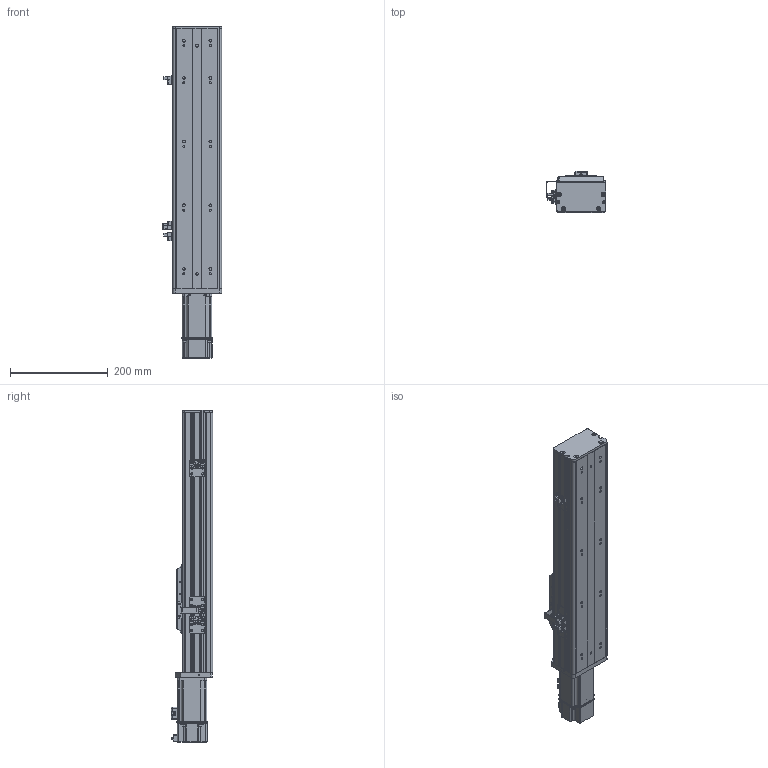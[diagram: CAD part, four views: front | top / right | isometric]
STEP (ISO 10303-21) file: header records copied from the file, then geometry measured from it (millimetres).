
FILE_DESCRIPTION (( 'STEP AP203' ), '1' );
FILE_NAME ('BOSW100-300-1610-1P-CM-M400W-O-S3（方程式2016）.step', '2020-10-10T06:31:16', ( '' ), ( '' ), 'SwSTEP 2.0', 'SolidWorks 2016', '' );
FILE_SCHEMA (( 'CONFIG_CONTROL_DESIGN' ));
Length unit declared in the file: millimetre
Products named in the file (13): BOSW-100-綴裔啣; 俋境嫖覜嘐隅啣; 新结构AIMSW-100-1P-宽&高轨共用-滑动座上组件; S400W(SMA-L040); BOSW-100-CM-宽轨-三菱M200W&400W马达板(新结构); BOSW-100-1P-CM-宽轨-侧板-300客户图纸; 放大器内置U型微型光电传感器PM-L65; BOSW100-300-1610-1P-CM-M400W-O-S3（方程式2016）; BOSW-100-1P-CM-宽轨-钢带-300客户图纸; BOSW&TW-100-俋离覜茼え; BOSW&TW-100-1P-賑雄釱欶; BOSW-100-1P-CM-300諦誧芞; BOSW&TW-100-詩湍揤沭(陔賦凳)
Assembly tree (18 placements, depth 2):
  BOSW100-300-1610-1P-CM-M400W-O-S3（方程式2016）
    BOSW-100-1P-CM-300諦誧芞
    BOSW-100-綴裔啣
    新结构AIMSW-100-1P-宽&高轨共用-滑动座上组件
    S400W(SMA-L040)
    BOSW&TW-100-詩湍揤沭(陔賦凳)  x2
    BOSW&TW-100-1P-賑雄釱欶
    BOSW&TW-100-俋离覜茼え
    俋境嫖覜嘐隅啣  x3
    放大器内置U型微型光电传感器PM-L65  x3
    BOSW-100-CM-宽轨-三菱M200W&400W马达板(新结构)
    BOSW-100-1P-CM-宽轨-侧板-300客户图纸  x2
    BOSW-100-1P-CM-宽轨-钢带-300客户图纸
Bounding box: 120.9 x 85.5 x 677.8 mm (x, y, z)
Volume: 1363680.1 mm3; surface area: 624073.1 mm2
Topology: 18 solids, 18 shells, 2481 faces, 6534 edges, 4165 vertices
Faces by surface type: plane 1220, cylinder 777, bspline 271, cone 165, torus 36, sphere 12
Entity records: 67584 total; most frequent: CARTESIAN_POINT 20420, ORIENTED_EDGE 9608, DIRECTION 9314, EDGE_CURVE 4804, AXIS2_PLACEMENT_3D 3308, VERTEX_POINT 3067, VECTOR 2698, LINE 2698
